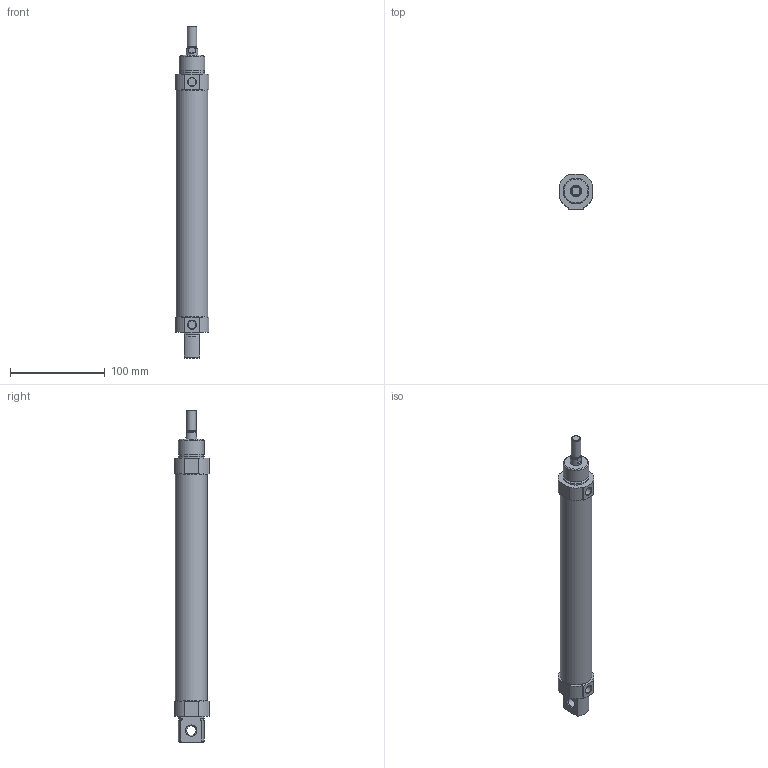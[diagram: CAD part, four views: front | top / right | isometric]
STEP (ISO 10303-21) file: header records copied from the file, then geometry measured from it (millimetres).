
FILE_DESCRIPTION((''),'2;1');
FILE_NAME('I:\3D電子目錄\氣缸\SDA\SDA32\SDA32\SDA32x200.stp','2007-08-06T10:35:51',('Administrator'),(''),'Autodesk Inventor 2008','Autodesk Inventor 2008','');
FILE_SCHEMA(('AUTOMOTIVE_DESIGN { 1 0 10303 214 1 1 1 1 }'));
Length unit declared in the file: millimetre
Products named in the file (1): SDA32X200
Bounding box: 35 x 36.5 x 350 mm (x, y, z)
Volume: 270259.7 mm3; surface area: 37651.8 mm2
Topology: 1 solids, 1 shells, 65 faces, 152 edges, 98 vertices
Faces by surface type: plane 27, cylinder 21, cone 12, torus 3, bspline 2
Full cylindrical faces by diameter (mm): 8.5 x2, 8.6 x1, 10 x2, 12 x1, 27 x2, 33.6 x1
Entity records: 1946 total; most frequent: CARTESIAN_POINT 486, DIRECTION 306, ORIENTED_EDGE 266, EDGE_CURVE 133, AXIS2_PLACEMENT_3D 121, VERTEX_POINT 97, EDGE_LOOP 94, FACE_OUTER_BOUND 65
